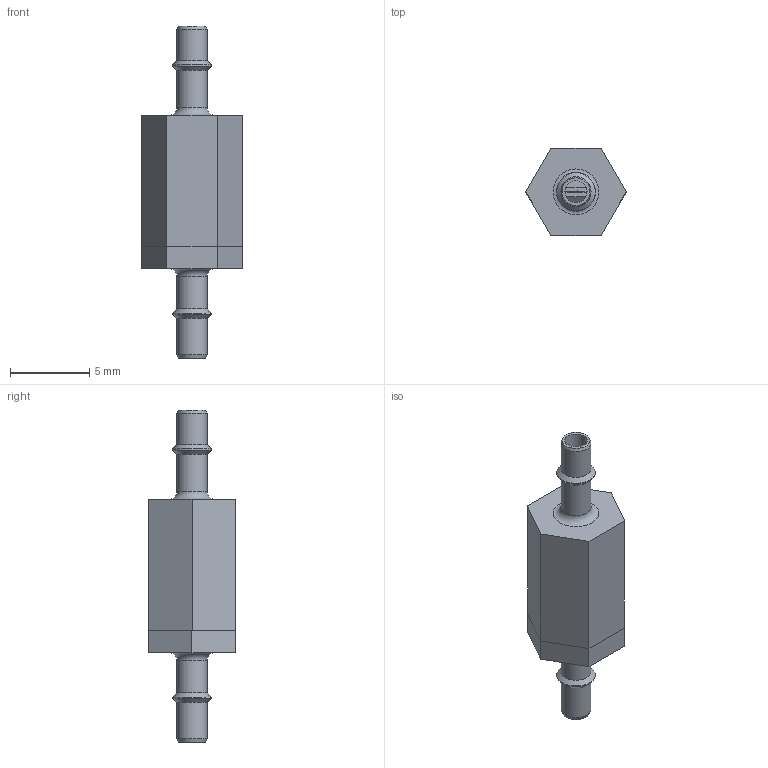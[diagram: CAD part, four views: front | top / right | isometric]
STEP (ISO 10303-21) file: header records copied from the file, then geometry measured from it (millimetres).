
FILE_DESCRIPTION (( 'STEP AP214' ), '1' );
FILE_NAME ('Duckbill_Bgr_Ventil_027_V5.STEP', '2022-02-01T16:25:51', ( '' ), ( '' ), 'SwSTEP 2.0', 'SolidWorks 2018', '' );
FILE_SCHEMA (( 'AUTOMOTIVE_DESIGN' ));
Length unit declared in the file: millimetre
Products named in the file (4): Duckbill_Bgr_Ventil_027_V5; Ventilgehäuse_2_V5; Ventilgehäuse_1_V5; Duckbill_Valve_027
Assembly tree (3 placements, depth 2):
  Duckbill_Bgr_Ventil_027_V5
    Ventilgehäuse_1_V5
    Duckbill_Valve_027
    Ventilgehäuse_2_V5
Bounding box: 6.35 x 5.5 x 21 mm (x, y, z)
Volume: 261.4 mm3; surface area: 626.9 mm2
Topology: 4 solids, 4 shells, 68 faces, 143 edges, 89 vertices
Faces by surface type: plane 26, cylinder 13, cone 10, bspline 10, torus 9
Full cylindrical faces by diameter (mm): 1.4 x2, 1.8 x1, 1.9 x4, 2.75 x1, 2.8 x1, 4 x1, 4.1 x1, 4.2 x1, 5 x1
Entity records: 2622 total; most frequent: CARTESIAN_POINT 1170, DIRECTION 258, ORIENTED_EDGE 212, EDGE_LOOP 114, AXIS2_PLACEMENT_3D 106, EDGE_CURVE 106, FACE_OUTER_BOUND 90, VERTEX_POINT 84
